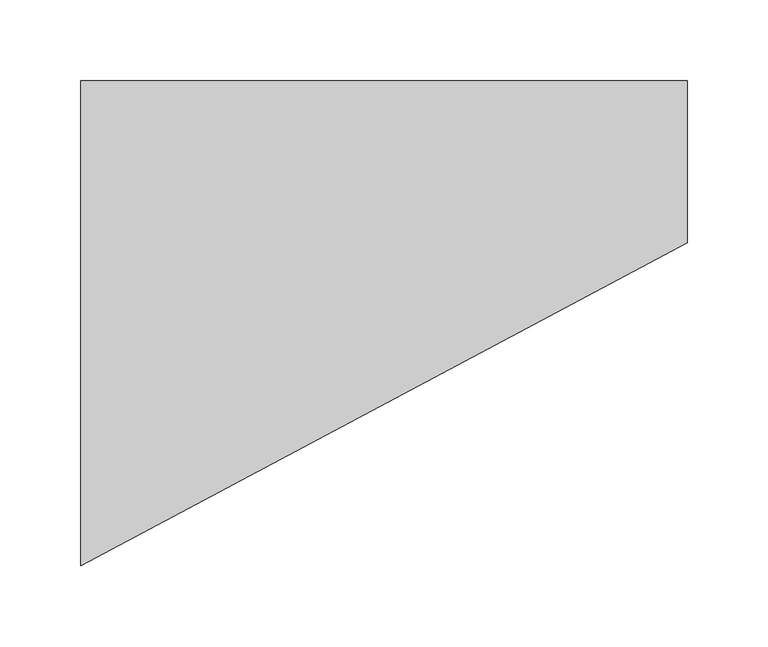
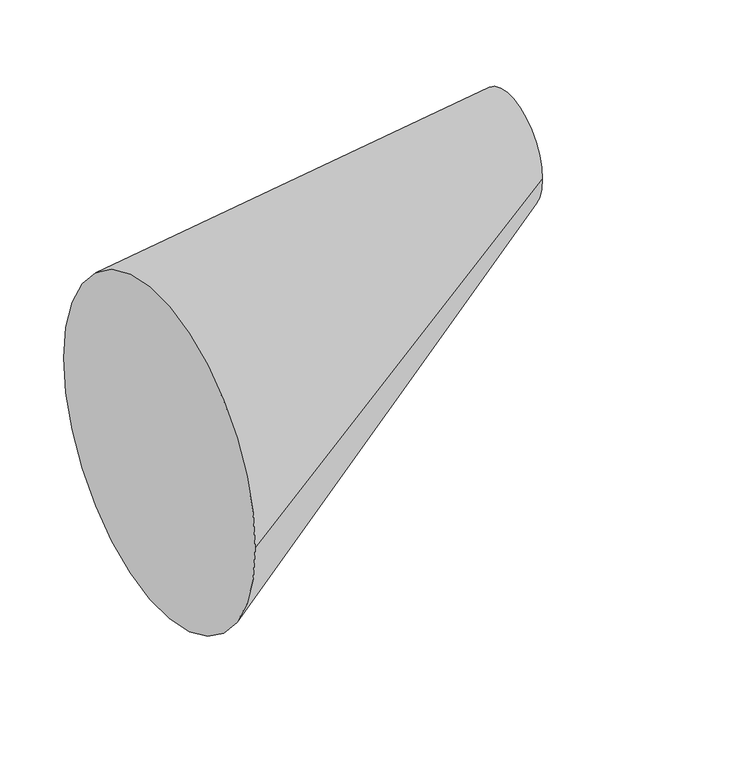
"""IFC4 building model written with IfcOpenShell, lengths in millimetres: duct fitting geometry, BL_ПереходникВоздуховодов_Круглый : Фланцевое соединение."""

from ifc_helpers import new_model, si_unit, frame, origin, place, context, project, spatial, circle_curve, source, transform, mapped, element, save
from ifc_brep_helpers import plane_surface, spline_surface, advanced_brep


def duct_fitting_735e9664(model_context):
    return source(origin(), model_context, "Body", "AdvancedBrep", [
        advanced_brep(
        [(375.0, 50.0, 100.0), (375.0, 150.0, 100.0), (0.0, -150.0, 0.0), (0.0, 150.0, 0.0)],
        [
            (0, 1, circle_curve(frame((375.0, 100.0, 100.0), z_axis=(1.0, 0.0, 0.0), x_axis=(0.0, 1.0, 0.0)), 50.0)),
            (1, 0, circle_curve(frame((375.0, 100.0, 100.0), z_axis=(1.0, 0.0, 0.0), x_axis=(0.0, 1.0, 0.0)), 50.0)),
            (2, 3, circle_curve(frame((0.0, 0.0, 0.0), z_axis=(-1.0, 0.0, 0.0), x_axis=(0.0, 1.0, 0.0)), 150.0)),
            (3, 2, circle_curve(frame((0.0, 0.0, 0.0), z_axis=(-1.0, 0.0, 0.0), x_axis=(0.0, 1.0, 0.0)), 150.0)),
            (3, 1),
            (0, 2),
        ],
        [
            plane_surface(frame((375.0, 100.0, 100.0), z_axis=(1.0, 0.0, 0.0), x_axis=(0.0, 0.0, -1.0))),
            plane_surface(frame((0.0, 0.0, 0.0), z_axis=(-1.0, 0.0, 0.0), x_axis=(0.0, 0.0, -1.0))),
            spline_surface(2, 1, [[(0.0, -150.0, 0.0), (375.0, 50.0, 100.0)], [(0.0, -150.0, -150.0), (375.0, 50.0, 50.0)], [(0.0, 0.0, -150.0), (375.0, 100.0, 50.0)], [(0.0, 150.0, -150.0), (375.0, 150.0, 50.0)], [(0.0, 150.0, 0.0), (375.0, 150.0, 100.0)]], [3, 2, 3], [2, 2], [0.0, 1.0, 2.0], [0.0, 1.0], weights=[[1.0, 1.0], [0.7071067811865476, 0.7071067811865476], [1.0, 1.0], [0.7071067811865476, 0.7071067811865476], [1.0, 1.0]]),
            spline_surface(2, 1, [[(0.0, 150.0, 0.0), (375.0, 150.0, 100.0)], [(0.0, 150.0, 150.0), (375.0, 150.0, 150.0)], [(0.0, 0.0, 150.0), (375.0, 100.0, 150.0)], [(0.0, -150.0, 150.0), (375.0, 50.0, 150.0)], [(0.0, -150.0, 0.0), (375.0, 50.0, 100.0)]], [3, 2, 3], [2, 2], [0.0, 1.0, 2.0], [0.0, 1.0], weights=[[1.0, 1.0], [0.7071067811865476, 0.7071067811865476], [1.0, 1.0], [0.7071067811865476, 0.7071067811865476], [1.0, 1.0]]),
        ],
        [
            (0, [[1, 2]]),
            (1, [[3, 4]]),
            (2, [[-4, 5, -1, 6]]),
            (3, [[-3, -6, -2, -5]]),
        ],
    ),
    ])


if __name__ == "__main__":
    model = new_model("IFC4")
    model_context = context("Model", 3, world=origin())
    ifc_project = project(units=[si_unit("LENGTHUNIT", "METRE", prefix="MILLI")], contexts=[model_context])
    site = spatial("IfcSite", under=ifc_project)
    building = spatial("IfcBuilding", under=site)
    placement = place(None, origin())
    duct_fitting_shape = duct_fitting_735e9664(model_context)
    element("IfcDuctFitting", 1, ObjectType="BL_ПереходникВоздуховодов_Круглый : Фланцевое соединение", at=placement, inside=building, context=model_context, shape_type="MappedRepresentation", body=[
        mapped(duct_fitting_shape, transform((0.0, 0.0, 0.0), x_axis=(1.0, 0.0, 0.0), y_axis=(0.0, 1.0, 0.0), z_axis=(0.0, 0.0, 1.0))),
    ])
    save(model, "model.ifc")
